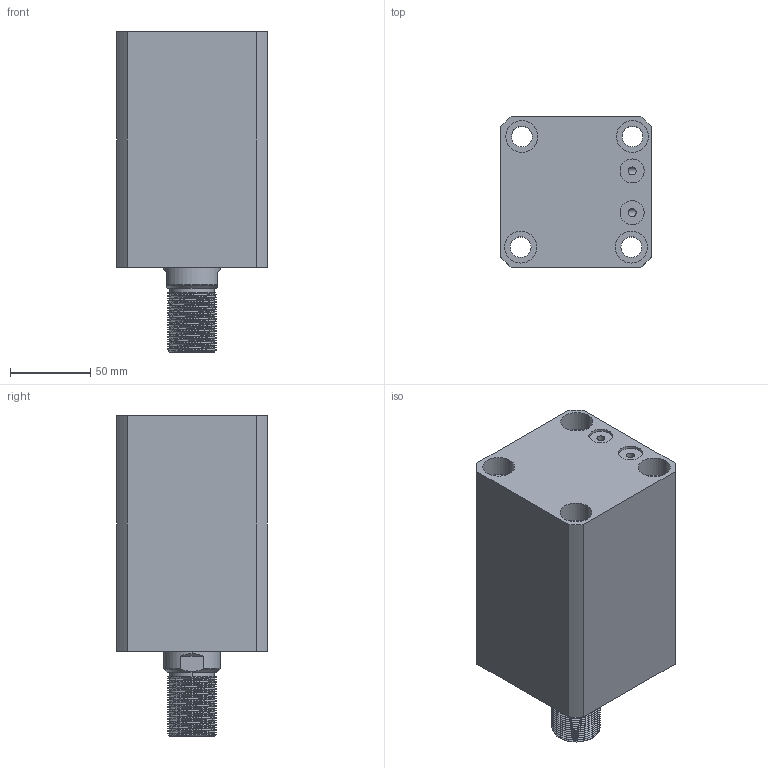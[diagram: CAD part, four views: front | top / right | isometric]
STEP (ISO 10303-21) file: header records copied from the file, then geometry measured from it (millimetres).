
FILE_DESCRIPTION (( 'STEP AP214' ), '1' );
FILE_NAME ('chtb-sdmb63x80w_asm.STEP', '2018-05-18T12:09:28', ( 'Windows' ), ( 'Microsoft' ), 'SwSTEP 2.0', 'SolidWorks 2015', '' );
FILE_SCHEMA (( 'AUTOMOTIVE_DESIGN' ));
Length unit declared in the file: millimetre
Products named in the file (4): CHTB-SDMB63X80NBT; CHTB63X80WHSG; CHTB-63QG; chtb-sdmb63x80w_asm
Assembly tree (3 placements, depth 2):
  chtb-sdmb63x80w_asm
    CHTB-63QG
    CHTB63X80WHSG
    CHTB-SDMB63X80NBT
Bounding box: 94 x 94 x 200 mm (x, y, z)
Volume: 1053776.6 mm3; surface area: 175524.9 mm2
Topology: 3 solids, 3 shells, 218 faces, 628 edges, 427 vertices
Faces by surface type: cylinder 156, plane 33, bspline 14, cone 9, torus 6
Entity records: 22278 total; most frequent: CARTESIAN_POINT 17042, ORIENTED_EDGE 1248, DIRECTION 869, EDGE_CURVE 624, VERTEX_POINT 427, AXIS2_PLACEMENT_3D 339, EDGE_LOOP 251, FACE_OUTER_BOUND 218
